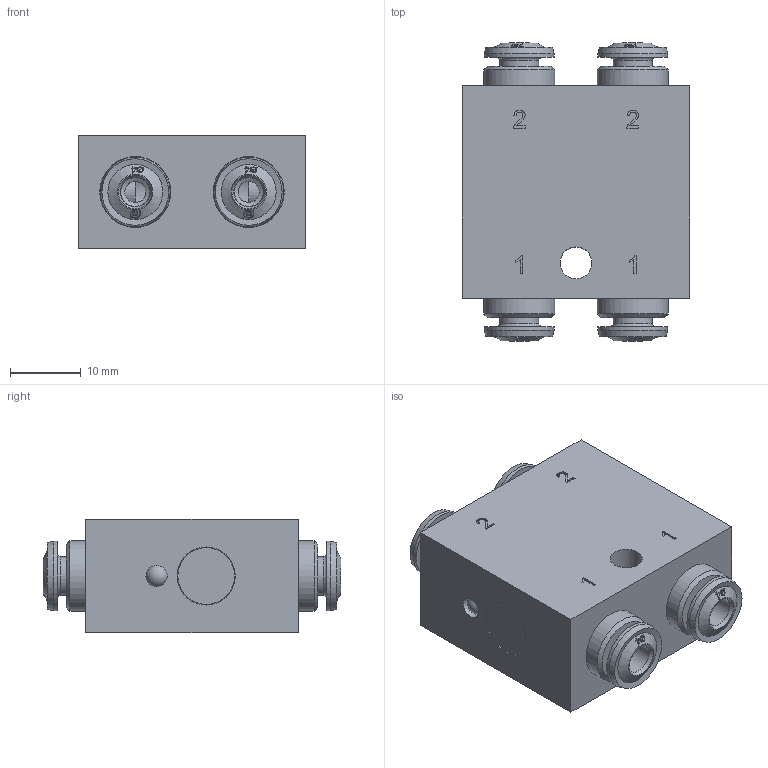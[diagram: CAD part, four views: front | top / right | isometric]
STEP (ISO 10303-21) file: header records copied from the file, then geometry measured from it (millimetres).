
FILE_DESCRIPTION(/* description */ ('Unknown','CAx-IF Rec.Pracs.---Representation and Presentation of Product Manufacturing Information (PMI)---4.0---2014-10-13','CAx-IF Rec.Pracs.---3D Tessellated Geometry---0.4---2014-09-14','2;1'),/* implementation_level */ '2;1');
FILE_NAME(/* name */ 'VA 341 01',/* time_stamp */ '2019-06-06T10:03:51+02:00',/* author */ ('Unknown'),/* organization */ ('Unknown'),/* preprocessor_version */ 'ST-DEVELOPER v16.7',/* originating_system */ 'DEX',/* authorisation */ $);
FILE_SCHEMA (('AP242_MANAGED_MODEL_BASED_3D_ENGINEERING_MIM_LF { 1 0 10303 442 20130219 1 4 }'));
Length unit declared in the file: millimetre
Products named in the file (2): VA 341 01
Assembly tree (1 placements, depth 2):
  VA 341 01
    VA 341 01
Bounding box: 32 x 42 x 16 mm (x, y, z)
Volume: 13828.7 mm3; surface area: 9536.5 mm2
Topology: 13 solids, 13 shells, 439 faces, 1094 edges, 721 vertices
Faces by surface type: plane 164, bspline 124, cone 77, cylinder 60, torus 12, sphere 2
Full cylindrical faces by diameter (mm): 3 x8, 3.1 x2, 4.1 x4, 4.2 x4, 4.5 x1, 5 x2, 5.5 x8, 5.9 x4, 6 x4, 7.5 x4, 8 x3, 9 x4, 9.05 x4, 9.8 x4, 10 x4
Entity records: 15779 total; most frequent: CARTESIAN_POINT 7422, ORIENTED_EDGE 1768, DIRECTION 1160, EDGE_CURVE 884, VERTEX_POINT 651, FACE_BOUND 651, EDGE_LOOP 646, B_SPLINE_CURVE_WITH_KNOTS 531
